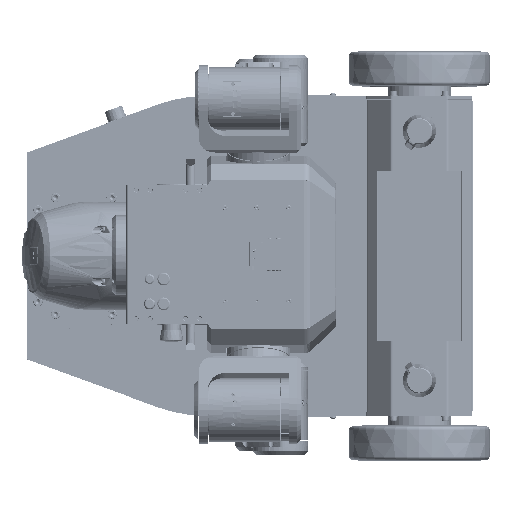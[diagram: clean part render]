
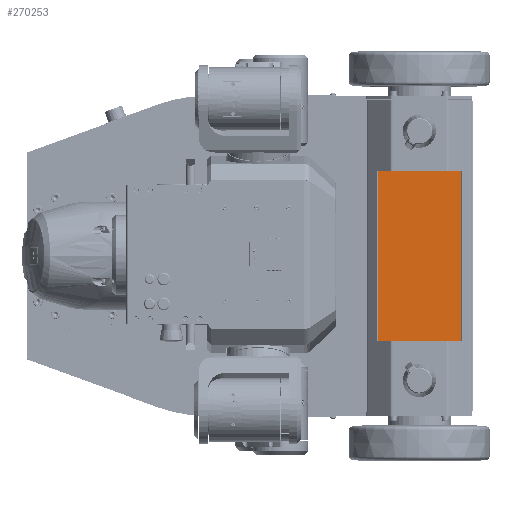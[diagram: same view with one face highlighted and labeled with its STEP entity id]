
A CAD part, top view. The second image highlights one B-rep face of the part: STEP entity #270253.
In plain terms, the highlighted planar face has unit normal (0, 0, 1).
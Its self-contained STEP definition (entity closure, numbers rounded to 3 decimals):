
#12122=PLANE('',#289031);
#22322=FACE_OUTER_BOUND('',#38068,.T.);
#38068=EDGE_LOOP('',(#182622,#182623,#182624,#182625));
#53916=LINE('',#426398,#74840);
#53917=LINE('',#426400,#74841);
#53932=LINE('',#426441,#74856);
#55892=LINE('',#439690,#76816);
#74840=VECTOR('',#315192,1.);
#74841=VECTOR('',#315195,1.);
#74856=VECTOR('',#315230,1.);
#76816=VECTOR('',#322256,1.);
#108127=VERTEX_POINT('',#426362);
#108132=VERTEX_POINT('',#426372);
#108135=VERTEX_POINT('',#426379);
#108136=VERTEX_POINT('',#426382);
#134509=EDGE_CURVE('',#108127,#108135,#53916,.T.);
#134510=EDGE_CURVE('',#108132,#108136,#53917,.T.);
#134531=EDGE_CURVE('',#108136,#108135,#53932,.T.);
#138176=EDGE_CURVE('',#108127,#108132,#55892,.T.);
#182622=ORIENTED_EDGE('',*,*,#134531,.F.);
#182623=ORIENTED_EDGE('',*,*,#134510,.F.);
#182624=ORIENTED_EDGE('',*,*,#138176,.F.);
#182625=ORIENTED_EDGE('',*,*,#134509,.T.);
#270253=ADVANCED_FACE('',(#22322),#12122,.F.);
#289031=AXIS2_PLACEMENT_3D('',#440231,#322394,#322395);
#315192=DIRECTION('',(0.,1.,0.));
#315195=DIRECTION('',(0.,1.,0.));
#315230=DIRECTION('',(1.,0.,0.));
#322256=DIRECTION('',(-1.,0.,0.));
#322394=DIRECTION('center_axis',(0.,0.,
-1.));
#322395=DIRECTION('ref_axis',(0.,-1.,0.));
#426362=CARTESIAN_POINT('',(534.149,-120.5,-89.349));
#426372=CARTESIAN_POINT('',(415.851,-120.5,-89.349));
#426379=CARTESIAN_POINT('',(534.148,120.5,-89.349));
#426382=CARTESIAN_POINT('',(415.852,120.5,-89.349));
#426398=CARTESIAN_POINT('',(534.149,-60.25,-89.349));
#426400=CARTESIAN_POINT('',(415.851,-60.25,-89.349));
#426441=CARTESIAN_POINT('',(474.999,120.5,-89.349));
#439690=CARTESIAN_POINT('',(474.999,-120.5,-89.349));
#440231=CARTESIAN_POINT('Origin',(474.999,0.,
-89.349));
